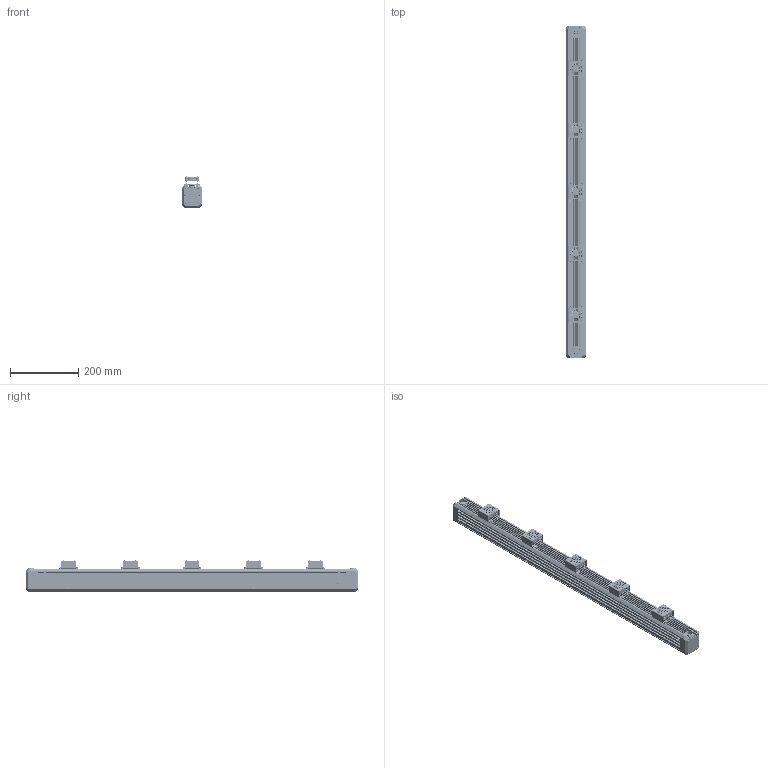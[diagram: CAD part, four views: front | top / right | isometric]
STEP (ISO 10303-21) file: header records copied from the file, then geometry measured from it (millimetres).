
FILE_DESCRIPTION((''),'2;1');
FILE_NAME('MV-LTDS-H-900-W','2022-09-02T16:52:26',('huguozhe'),(''),'CREO PARAMETRIC BY PTC INC, 2020044','CREO PARAMETRIC BY PTC INC, 2020044','');
FILE_SCHEMA(('AUTOMOTIVE_DESIGN { 1 0 10303 214 1 1 1 1 }'));
Products named in the file (1): MV-LTDS-H-900-W
Bounding box: 58 x 970 x 90.6 mm (x, y, z)
Volume: 2586832.3 mm3; surface area: 820805.2 mm2
Topology: 1 solids, 293 shells, 6016 faces, 15539 edges, 9630 vertices
Faces by surface type: plane 2886, cylinder 2008, cone 712, torus 326, bspline 84
Entity records: 218671 total; most frequent: CARTESIAN_POINT 44566, DIRECTION 32217, ORIENTED_EDGE 29630, EDGE_CURVE 15167, AXIS2_PLACEMENT_3D 12307, VERTEX_POINT 9630, VECTOR 7603, LINE 7603
